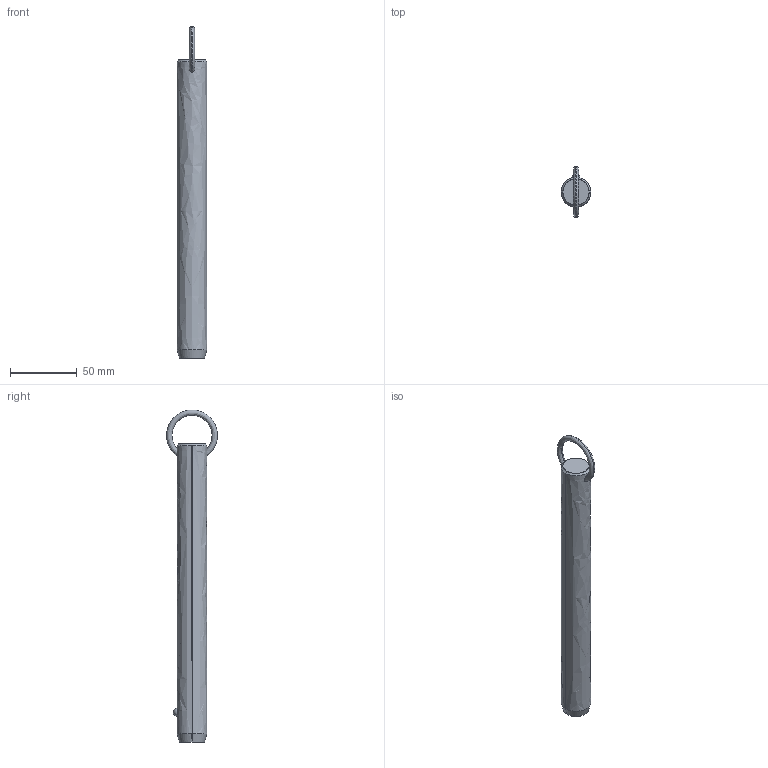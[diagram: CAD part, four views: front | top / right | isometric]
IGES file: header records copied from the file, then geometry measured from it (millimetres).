
Start section: SolidWorks IGES file using analytic representation for surfaces
Global section: file name: C:\Users\liam_\OneDrive\Documents\WORK\Work for WixRoyd\Job Files\J-00019 - Matt Davis CAD Checking\04. CAD Drawings\automotion20190605\P1250.2_v2\P1250.2_v2_20190729_IGES\P1250.087-730.igs; native system: SolidWorks 2017; preprocessor: SolidWorks 2017; author: liam_; date: 190730.173006; units: millimetre
Bounding box: 22.2 x 38.08 x 248.88 mm (x, y, z)
Surface area: 17231.4 mm2 (no closed solid volume)
Topology: 0 solids, 0 shells, 12 faces, 302 edges, 300 vertices
Faces by surface type: revolution 8, bspline 4
